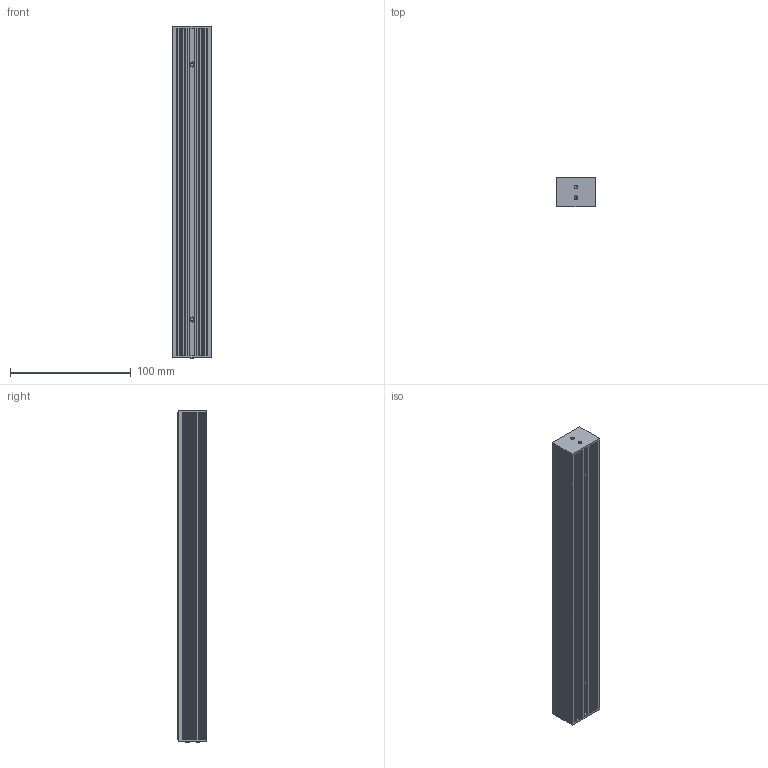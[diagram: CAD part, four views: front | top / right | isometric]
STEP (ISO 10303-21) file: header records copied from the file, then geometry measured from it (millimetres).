
FILE_DESCRIPTION((''),'2;1');
FILE_NAME('DSL32','2020-03-23T',('ASUS'),(''),'PRO/ENGINEER BY PARAMETRIC TECHNOLOGY CORPORATION, 2008380','PRO/ENGINEER BY PARAMETRIC TECHNOLOGY CORPORATION, 2008380','');
FILE_SCHEMA(('CONFIG_CONTROL_DESIGN'));
Length unit declared in the file: millimetre
Products named in the file (1): DSL32
Bounding box: 32 x 24 x 275 mm (x, y, z)
Volume: 186565.8 mm3; surface area: 61534.8 mm2
Topology: 1 solids, 5 shells, 305 faces, 780 edges, 512 vertices
Faces by surface type: plane 191, cylinder 94, cone 20
Entity records: 9205 total; most frequent: DIRECTION 1592, CARTESIAN_POINT 1590, ORIENTED_EDGE 1528, EDGE_CURVE 772, VECTOR 564, LINE 564, AXIS2_PLACEMENT_3D 514, VERTEX_POINT 512
